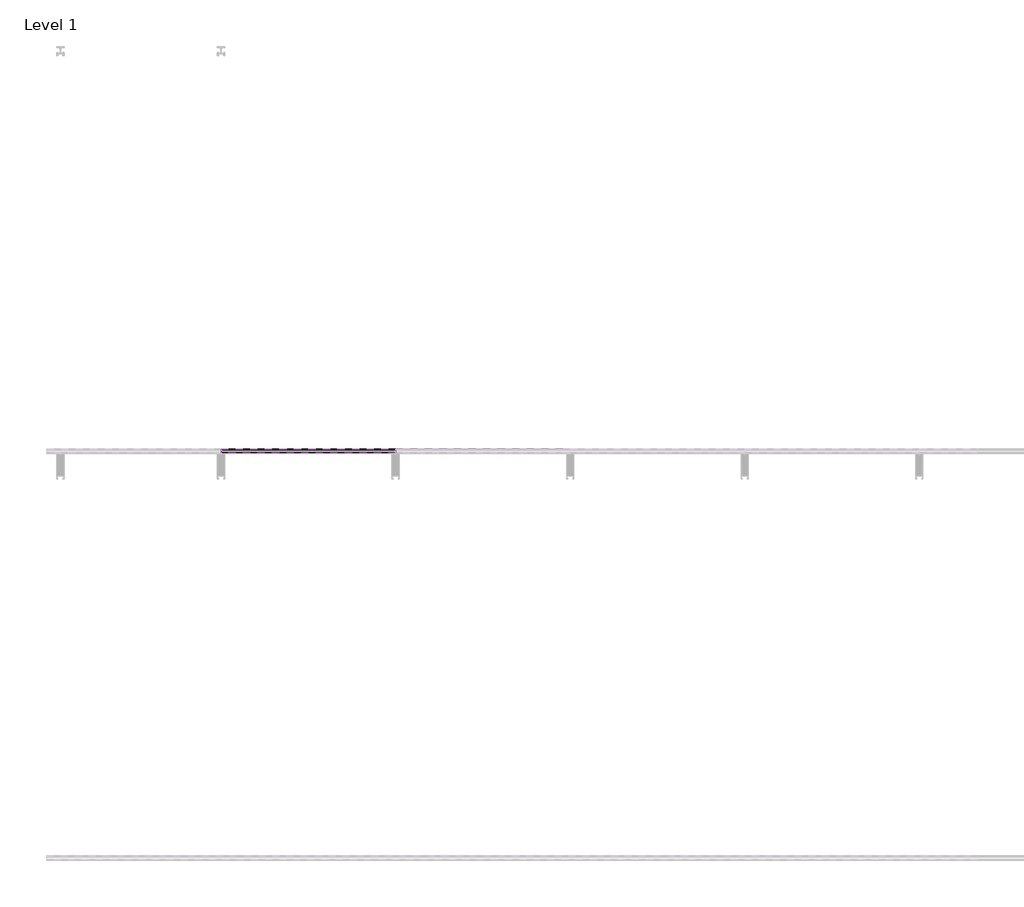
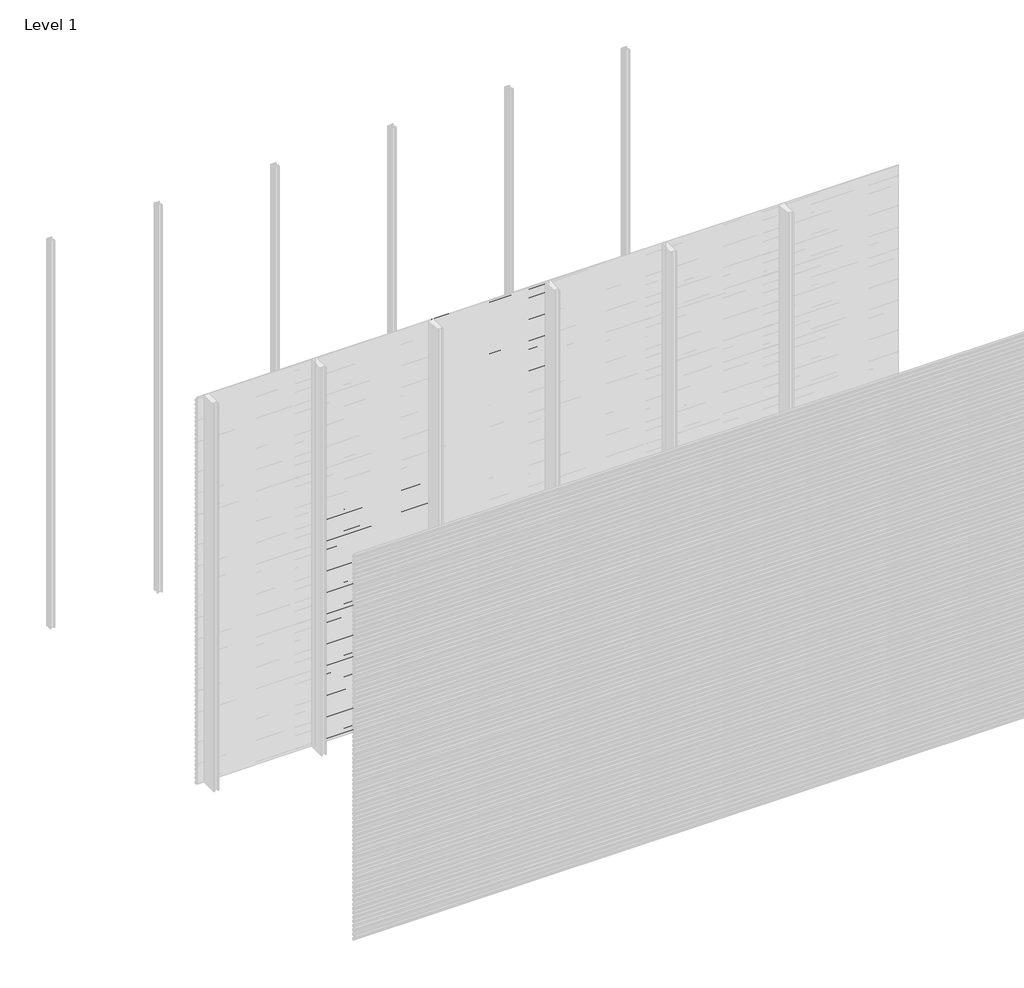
# One storey, part 16 of 96: 77 proxies.
"""IFC4 building model written with IfcOpenShell, lengths in millimetres."""

from ifc_helpers import new_model, si_unit, frame, origin, place, context, project, spatial, polyline, outline, extrude, element, save

model = new_model("IFC4")

# Units and contexts
model_context = context("Model", 3, world=origin())
ifc_project = project(units=[si_unit("LENGTHUNIT", "METRE", prefix="MILLI")], contexts=[model_context])

# Site, building, storey
site = spatial("IfcSite", under=ifc_project)
building = spatial("IfcBuilding", under=site)
storey = spatial("IfcBuildingStorey", under=building, Name="Level 1", Elevation=0.0)

# Proxies
placement = place(None, origin())
element("IfcBuildingElementProxy", 1, Name="Wall Sweeps", at=placement, inside=storey, context=model_context, shape_type="SweptSolid", body=[
    extrude(outline(polyline([(-47977.6, 1839.5655033), (-47977.6, 1825.2779188), (-47982.4114965, 1822.5), (-47982.4114965, 1823.7701706), (-47978.85, 1825.8264016), (-47978.85, 1838.8437382), (-47998.0, 1849.9000799), (-47998.0, 1864.8), (-47996.75, 1864.8), (-47996.75, 1850.6217609), (-47977.6, 1839.5655033)])), frame((857.1428571, 0.0, 0.0), z_axis=(1.0, 0.0, 0.0), x_axis=(0.0, 1.0, 0.0)), (0.0, 0.0, 1.0), 857.1428571),
])
element("IfcBuildingElementProxy", 2, Name="Wall Sweeps", at=placement, inside=storey, context=model_context, shape_type="SweptSolid", body=[
    extrude(outline(polyline([(-47977.6, 1806.2655033), (-47977.6, 1791.9779188), (-47982.4114965, 1789.2), (-47982.4114965, 1790.4701706), (-47978.85, 1792.5264016), (-47978.85, 1805.5437382), (-47998.0, 1816.6000799), (-47998.0, 1831.5), (-47996.75, 1831.5), (-47996.75, 1817.3217609), (-47977.6, 1806.2655033)])), frame((857.1428571, 0.0, 0.0), z_axis=(1.0, 0.0, 0.0), x_axis=(0.0, 1.0, 0.0)), (0.0, 0.0, 1.0), 857.1428571),
])
element("IfcBuildingElementProxy", 3, Name="Wall Sweeps", at=placement, inside=storey, context=model_context, shape_type="SweptSolid", body=[
    extrude(outline(polyline([(-47977.6, 1772.9655033), (-47977.6, 1758.6779188), (-47982.4114965, 1755.9), (-47982.4114965, 1757.1701706), (-47978.85, 1759.2264016), (-47978.85, 1772.2437382), (-47998.0, 1783.3000799), (-47998.0, 1798.2), (-47996.75, 1798.2), (-47996.75, 1784.0217609), (-47977.6, 1772.9655033)])), frame((857.1428571, 0.0, 0.0), z_axis=(1.0, 0.0, 0.0), x_axis=(0.0, 1.0, 0.0)), (0.0, 0.0, 1.0), 857.1428571),
])
element("IfcBuildingElementProxy", 4, Name="Wall Sweeps", at=placement, inside=storey, context=model_context, shape_type="SweptSolid", body=[
    extrude(outline(polyline([(-47977.6, 1739.6655033), (-47977.6, 1725.3779188), (-47982.4114965, 1722.6), (-47982.4114965, 1723.8701706), (-47978.85, 1725.9264016), (-47978.85, 1738.9437382), (-47998.0, 1750.0000799), (-47998.0, 1764.9), (-47996.75, 1764.9), (-47996.75, 1750.7217609), (-47977.6, 1739.6655033)])), frame((857.1428571, 0.0, 0.0), z_axis=(1.0, 0.0, 0.0), x_axis=(0.0, 1.0, 0.0)), (0.0, 0.0, 1.0), 857.1428571),
])
element("IfcBuildingElementProxy", 5, Name="Wall Sweeps", at=placement, inside=storey, context=model_context, shape_type="SweptSolid", body=[
    extrude(outline(polyline([(-47977.6, 1706.3655033), (-47977.6, 1692.0779188), (-47982.4114965, 1689.3), (-47982.4114965, 1690.5701706), (-47978.85, 1692.6264016), (-47978.85, 1705.6437382), (-47998.0, 1716.7000799), (-47998.0, 1731.6), (-47996.75, 1731.6), (-47996.75, 1717.4217609), (-47977.6, 1706.3655033)])), frame((857.1428571, 0.0, 0.0), z_axis=(1.0, 0.0, 0.0), x_axis=(0.0, 1.0, 0.0)), (0.0, 0.0, 1.0), 857.1428571),
])
element("IfcBuildingElementProxy", 6, Name="Wall Sweeps", at=placement, inside=storey, context=model_context, shape_type="SweptSolid", body=[
    extrude(outline(polyline([(-47977.6, 1673.0655033), (-47977.6, 1658.7779188), (-47982.4114965, 1656.0), (-47982.4114965, 1657.2701706), (-47978.85, 1659.3264016), (-47978.85, 1672.3437382), (-47998.0, 1683.4000799), (-47998.0, 1698.3), (-47996.75, 1698.3), (-47996.75, 1684.1217609), (-47977.6, 1673.0655033)])), frame((857.1428571, 0.0, 0.0), z_axis=(1.0, 0.0, 0.0), x_axis=(0.0, 1.0, 0.0)), (0.0, 0.0, 1.0), 857.1428571),
])
element("IfcBuildingElementProxy", 7, Name="Wall Sweeps", at=placement, inside=storey, context=model_context, shape_type="SweptSolid", body=[
    extrude(outline(polyline([(-47977.6, 1639.7655033), (-47977.6, 1625.4779188), (-47982.4114965, 1622.7), (-47982.4114965, 1623.9701706), (-47978.85, 1626.0264016), (-47978.85, 1639.0437382), (-47998.0, 1650.1000799), (-47998.0, 1665.0), (-47996.75, 1665.0), (-47996.75, 1650.8217609), (-47977.6, 1639.7655033)])), frame((857.1428571, 0.0, 0.0), z_axis=(1.0, 0.0, 0.0), x_axis=(0.0, 1.0, 0.0)), (0.0, 0.0, 1.0), 857.1428571),
])
element("IfcBuildingElementProxy", 8, Name="Wall Sweeps", at=placement, inside=storey, context=model_context, shape_type="SweptSolid", body=[
    extrude(outline(polyline([(-47977.6, 1606.4655033), (-47977.6, 1592.1779188), (-47982.4114965, 1589.4), (-47982.4114965, 1590.6701706), (-47978.85, 1592.7264016), (-47978.85, 1605.7437382), (-47998.0, 1616.8000799), (-47998.0, 1631.7), (-47996.75, 1631.7), (-47996.75, 1617.5217609), (-47977.6, 1606.4655033)])), frame((857.1428571, 0.0, 0.0), z_axis=(1.0, 0.0, 0.0), x_axis=(0.0, 1.0, 0.0)), (0.0, 0.0, 1.0), 857.1428571),
])
element("IfcBuildingElementProxy", 9, Name="Wall Sweeps", at=placement, inside=storey, context=model_context, shape_type="SweptSolid", body=[
    extrude(outline(polyline([(-47977.6, 1573.1655033), (-47977.6, 1558.8779188), (-47982.4114965, 1556.1), (-47982.4114965, 1557.3701706), (-47978.85, 1559.4264016), (-47978.85, 1572.4437382), (-47998.0, 1583.5000799), (-47998.0, 1598.4), (-47996.75, 1598.4), (-47996.75, 1584.2217609), (-47977.6, 1573.1655033)])), frame((857.1428571, 0.0, 0.0), z_axis=(1.0, 0.0, 0.0), x_axis=(0.0, 1.0, 0.0)), (0.0, 0.0, 1.0), 857.1428571),
])
element("IfcBuildingElementProxy", 10, Name="Wall Sweeps", at=placement, inside=storey, context=model_context, shape_type="SweptSolid", body=[
    extrude(outline(polyline([(-47977.6, 1539.8655033), (-47977.6, 1525.5779188), (-47982.4114965, 1522.8), (-47982.4114965, 1524.0701706), (-47978.85, 1526.1264016), (-47978.85, 1539.1437382), (-47998.0, 1550.2000799), (-47998.0, 1565.1), (-47996.75, 1565.1), (-47996.75, 1550.9217609), (-47977.6, 1539.8655033)])), frame((857.1428571, 0.0, 0.0), z_axis=(1.0, 0.0, 0.0), x_axis=(0.0, 1.0, 0.0)), (0.0, 0.0, 1.0), 857.1428571),
])
element("IfcBuildingElementProxy", 11, Name="Wall Sweeps", at=placement, inside=storey, context=model_context, shape_type="SweptSolid", body=[
    extrude(outline(polyline([(-47977.6, 1506.5655033), (-47977.6, 1492.2779188), (-47982.4114965, 1489.5), (-47982.4114965, 1490.7701706), (-47978.85, 1492.8264016), (-47978.85, 1505.8437382), (-47998.0, 1516.9000799), (-47998.0, 1531.8), (-47996.75, 1531.8), (-47996.75, 1517.6217609), (-47977.6, 1506.5655033)])), frame((857.1428571, 0.0, 0.0), z_axis=(1.0, 0.0, 0.0), x_axis=(0.0, 1.0, 0.0)), (0.0, 0.0, 1.0), 857.1428571),
])
element("IfcBuildingElementProxy", 12, Name="Wall Sweeps", at=placement, inside=storey, context=model_context, shape_type="SweptSolid", body=[
    extrude(outline(polyline([(-47977.6, 1473.2655033), (-47977.6, 1458.9779188), (-47982.4114965, 1456.2), (-47982.4114965, 1457.4701706), (-47978.85, 1459.5264016), (-47978.85, 1472.5437382), (-47998.0, 1483.6000799), (-47998.0, 1498.5), (-47996.75, 1498.5), (-47996.75, 1484.3217609), (-47977.6, 1473.2655033)])), frame((857.1428571, 0.0, 0.0), z_axis=(1.0, 0.0, 0.0), x_axis=(0.0, 1.0, 0.0)), (0.0, 0.0, 1.0), 857.1428571),
])
element("IfcBuildingElementProxy", 13, Name="Wall Sweeps", at=placement, inside=storey, context=model_context, shape_type="SweptSolid", body=[
    extrude(outline(polyline([(-47977.6, 1439.9655033), (-47977.6, 1425.6779188), (-47982.4114965, 1422.9), (-47982.4114965, 1424.1701706), (-47978.85, 1426.2264016), (-47978.85, 1439.2437382), (-47998.0, 1450.3000799), (-47998.0, 1465.2), (-47996.75, 1465.2), (-47996.75, 1451.0217609), (-47977.6, 1439.9655033)])), frame((857.1428571, 0.0, 0.0), z_axis=(1.0, 0.0, 0.0), x_axis=(0.0, 1.0, 0.0)), (0.0, 0.0, 1.0), 857.1428571),
])
element("IfcBuildingElementProxy", 14, Name="Wall Sweeps", at=placement, inside=storey, context=model_context, shape_type="SweptSolid", body=[
    extrude(outline(polyline([(-47977.6, 1406.6655033), (-47977.6, 1392.3779188), (-47982.4114965, 1389.6), (-47982.4114965, 1390.8701706), (-47978.85, 1392.9264016), (-47978.85, 1405.9437382), (-47998.0, 1417.0000799), (-47998.0, 1431.9), (-47996.75, 1431.9), (-47996.75, 1417.7217609), (-47977.6, 1406.6655033)])), frame((857.1428571, 0.0, 0.0), z_axis=(1.0, 0.0, 0.0), x_axis=(0.0, 1.0, 0.0)), (0.0, 0.0, 1.0), 857.1428571),
])
element("IfcBuildingElementProxy", 15, Name="Wall Sweeps", at=placement, inside=storey, context=model_context, shape_type="SweptSolid", body=[
    extrude(outline(polyline([(-47977.6, 1373.3655033), (-47977.6, 1359.0779188), (-47982.4114965, 1356.3), (-47982.4114965, 1357.5701706), (-47978.85, 1359.6264016), (-47978.85, 1372.6437382), (-47998.0, 1383.7000799), (-47998.0, 1398.6), (-47996.75, 1398.6), (-47996.75, 1384.4217609), (-47977.6, 1373.3655033)])), frame((857.1428571, 0.0, 0.0), z_axis=(1.0, 0.0, 0.0), x_axis=(0.0, 1.0, 0.0)), (0.0, 0.0, 1.0), 857.1428571),
])
element("IfcBuildingElementProxy", 16, Name="Wall Sweeps", at=placement, inside=storey, context=model_context, shape_type="SweptSolid", body=[
    extrude(outline(polyline([(-47977.6, 1340.0655033), (-47977.6, 1325.7779188), (-47982.4114965, 1323.0), (-47982.4114965, 1324.2701706), (-47978.85, 1326.3264016), (-47978.85, 1339.3437382), (-47998.0, 1350.4000799), (-47998.0, 1365.3), (-47996.75, 1365.3), (-47996.75, 1351.1217609), (-47977.6, 1340.0655033)])), frame((857.1428571, 0.0, 0.0), z_axis=(1.0, 0.0, 0.0), x_axis=(0.0, 1.0, 0.0)), (0.0, 0.0, 1.0), 857.1428571),
])
element("IfcBuildingElementProxy", 17, Name="Wall Sweeps", at=placement, inside=storey, context=model_context, shape_type="SweptSolid", body=[
    extrude(outline(polyline([(-47977.6, 1306.7655033), (-47977.6, 1292.4779188), (-47982.4114965, 1289.7), (-47982.4114965, 1290.9701706), (-47978.85, 1293.0264016), (-47978.85, 1306.0437382), (-47998.0, 1317.1000799), (-47998.0, 1332.0), (-47996.75, 1332.0), (-47996.75, 1317.8217609), (-47977.6, 1306.7655033)])), frame((857.1428571, 0.0, 0.0), z_axis=(1.0, 0.0, 0.0), x_axis=(0.0, 1.0, 0.0)), (0.0, 0.0, 1.0), 857.1428571),
])
element("IfcBuildingElementProxy", 18, Name="Wall Sweeps", at=placement, inside=storey, context=model_context, shape_type="SweptSolid", body=[
    extrude(outline(polyline([(-47977.6, 1273.4655033), (-47977.6, 1259.1779188), (-47982.4114965, 1256.4), (-47982.4114965, 1257.6701706), (-47978.85, 1259.7264016), (-47978.85, 1272.7437382), (-47998.0, 1283.8000799), (-47998.0, 1298.7), (-47996.75, 1298.7), (-47996.75, 1284.5217609), (-47977.6, 1273.4655033)])), frame((857.1428571, 0.0, 0.0), z_axis=(1.0, 0.0, 0.0), x_axis=(0.0, 1.0, 0.0)), (0.0, 0.0, 1.0), 857.1428571),
])
element("IfcBuildingElementProxy", 19, Name="Wall Sweeps", at=placement, inside=storey, context=model_context, shape_type="SweptSolid", body=[
    extrude(outline(polyline([(-47977.6, 1240.1655033), (-47977.6, 1225.8779188), (-47982.4114965, 1223.1), (-47982.4114965, 1224.3701706), (-47978.85, 1226.4264016), (-47978.85, 1239.4437382), (-47998.0, 1250.5000799), (-47998.0, 1265.4), (-47996.75, 1265.4), (-47996.75, 1251.2217609), (-47977.6, 1240.1655033)])), frame((857.1428571, 0.0, 0.0), z_axis=(1.0, 0.0, 0.0), x_axis=(0.0, 1.0, 0.0)), (0.0, 0.0, 1.0), 857.1428571),
])
element("IfcBuildingElementProxy", 20, Name="Wall Sweeps", at=placement, inside=storey, context=model_context, shape_type="SweptSolid", body=[
    extrude(outline(polyline([(-47977.6, 1206.8655033), (-47977.6, 1192.5779188), (-47982.4114965, 1189.8), (-47982.4114965, 1191.0701706), (-47978.85, 1193.1264016), (-47978.85, 1206.1437382), (-47998.0, 1217.2000799), (-47998.0, 1232.1), (-47996.75, 1232.1), (-47996.75, 1217.9217609), (-47977.6, 1206.8655033)])), frame((857.1428571, 0.0, 0.0), z_axis=(1.0, 0.0, 0.0), x_axis=(0.0, 1.0, 0.0)), (0.0, 0.0, 1.0), 857.1428571),
])
element("IfcBuildingElementProxy", 21, Name="Wall Sweeps", at=placement, inside=storey, context=model_context, shape_type="SweptSolid", body=[
    extrude(outline(polyline([(-47977.6, 1173.5655033), (-47977.6, 1159.2779188), (-47982.4114965, 1156.5), (-47982.4114965, 1157.7701706), (-47978.85, 1159.8264016), (-47978.85, 1172.8437382), (-47998.0, 1183.9000799), (-47998.0, 1198.8), (-47996.75, 1198.8), (-47996.75, 1184.6217609), (-47977.6, 1173.5655033)])), frame((857.1428571, 0.0, 0.0), z_axis=(1.0, 0.0, 0.0), x_axis=(0.0, 1.0, 0.0)), (0.0, 0.0, 1.0), 857.1428571),
])
element("IfcBuildingElementProxy", 22, Name="Wall Sweeps", at=placement, inside=storey, context=model_context, shape_type="SweptSolid", body=[
    extrude(outline(polyline([(-47977.6, 1140.2655033), (-47977.6, 1125.9779188), (-47982.4114965, 1123.2), (-47982.4114965, 1124.4701706), (-47978.85, 1126.5264016), (-47978.85, 1139.5437382), (-47998.0, 1150.6000799), (-47998.0, 1165.5), (-47996.75, 1165.5), (-47996.75, 1151.3217609), (-47977.6, 1140.2655033)])), frame((857.1428571, 0.0, 0.0), z_axis=(1.0, 0.0, 0.0), x_axis=(0.0, 1.0, 0.0)), (0.0, 0.0, 1.0), 857.1428571),
])
element("IfcBuildingElementProxy", 23, Name="Wall Sweeps", at=placement, inside=storey, context=model_context, shape_type="SweptSolid", body=[
    extrude(outline(polyline([(-47977.6, 1106.9655033), (-47977.6, 1092.6779188), (-47982.4114965, 1089.9), (-47982.4114965, 1091.1701706), (-47978.85, 1093.2264016), (-47978.85, 1106.2437382), (-47998.0, 1117.3000799), (-47998.0, 1132.2), (-47996.75, 1132.2), (-47996.75, 1118.0217609), (-47977.6, 1106.9655033)])), frame((857.1428571, 0.0, 0.0), z_axis=(1.0, 0.0, 0.0), x_axis=(0.0, 1.0, 0.0)), (0.0, 0.0, 1.0), 857.1428571),
])
element("IfcBuildingElementProxy", 24, Name="Wall Sweeps", at=placement, inside=storey, context=model_context, shape_type="SweptSolid", body=[
    extrude(outline(polyline([(-47977.6, 1073.6655033), (-47977.6, 1059.3779188), (-47982.4114965, 1056.6), (-47982.4114965, 1057.8701706), (-47978.85, 1059.9264016), (-47978.85, 1072.9437382), (-47998.0, 1084.0000799), (-47998.0, 1098.9), (-47996.75, 1098.9), (-47996.75, 1084.7217609), (-47977.6, 1073.6655033)])), frame((857.1428571, 0.0, 0.0), z_axis=(1.0, 0.0, 0.0), x_axis=(0.0, 1.0, 0.0)), (0.0, 0.0, 1.0), 857.1428571),
])
element("IfcBuildingElementProxy", 25, Name="Wall Sweeps", at=placement, inside=storey, context=model_context, shape_type="SweptSolid", body=[
    extrude(outline(polyline([(-47977.6, 1040.3655033), (-47977.6, 1026.0779188), (-47982.4114965, 1023.3), (-47982.4114965, 1024.5701706), (-47978.85, 1026.6264016), (-47978.85, 1039.6437382), (-47998.0, 1050.7000799), (-47998.0, 1065.6), (-47996.75, 1065.6), (-47996.75, 1051.4217609), (-47977.6, 1040.3655033)])), frame((857.1428571, 0.0, 0.0), z_axis=(1.0, 0.0, 0.0), x_axis=(0.0, 1.0, 0.0)), (0.0, 0.0, 1.0), 857.1428571),
])
element("IfcBuildingElementProxy", 26, Name="Wall Sweeps", at=placement, inside=storey, context=model_context, shape_type="SweptSolid", body=[
    extrude(outline(polyline([(-47977.6, 1007.0655033), (-47977.6, 992.7779188), (-47982.4114965, 990.0), (-47982.4114965, 991.2701706), (-47978.85, 993.3264016), (-47978.85, 1006.3437382), (-47998.0, 1017.4000799), (-47998.0, 1032.3), (-47996.75, 1032.3), (-47996.75, 1018.1217609), (-47977.6, 1007.0655033)])), frame((857.1428571, 0.0, 0.0), z_axis=(1.0, 0.0, 0.0), x_axis=(0.0, 1.0, 0.0)), (0.0, 0.0, 1.0), 857.1428571),
])
element("IfcBuildingElementProxy", 27, Name="Wall Sweeps", at=placement, inside=storey, context=model_context, shape_type="SweptSolid", body=[
    extrude(outline(polyline([(-47977.6, 973.7655033), (-47977.6, 959.4779188), (-47982.4114965, 956.7), (-47982.4114965, 957.9701706), (-47978.85, 960.0264016), (-47978.85, 973.0437382), (-47998.0, 984.1000799), (-47998.0, 999.0), (-47996.75, 999.0), (-47996.75, 984.8217609), (-47977.6, 973.7655033)])), frame((857.1428571, 0.0, 0.0), z_axis=(1.0, 0.0, 0.0), x_axis=(0.0, 1.0, 0.0)), (0.0, 0.0, 1.0), 857.1428571),
])
element("IfcBuildingElementProxy", 28, Name="Wall Sweeps", at=placement, inside=storey, context=model_context, shape_type="SweptSolid", body=[
    extrude(outline(polyline([(-47977.6, 940.4655033), (-47977.6, 926.1779188), (-47982.4114965, 923.4), (-47982.4114965, 924.6701706), (-47978.85, 926.7264016), (-47978.85, 939.7437382), (-47998.0, 950.8000799), (-47998.0, 965.7), (-47996.75, 965.7), (-47996.75, 951.5217609), (-47977.6, 940.4655033)])), frame((857.1428571, 0.0, 0.0), z_axis=(1.0, 0.0, 0.0), x_axis=(0.0, 1.0, 0.0)), (0.0, 0.0, 1.0), 857.1428571),
])
element("IfcBuildingElementProxy", 29, Name="Wall Sweeps", at=placement, inside=storey, context=model_context, shape_type="SweptSolid", body=[
    extrude(outline(polyline([(-47977.6, 907.1655033), (-47977.6, 892.8779188), (-47982.4114965, 890.1), (-47982.4114965, 891.3701706), (-47978.85, 893.4264016), (-47978.85, 906.4437382), (-47998.0, 917.5000799), (-47998.0, 932.4), (-47996.75, 932.4), (-47996.75, 918.2217609), (-47977.6, 907.1655033)])), frame((857.1428571, 0.0, 0.0), z_axis=(1.0, 0.0, 0.0), x_axis=(0.0, 1.0, 0.0)), (0.0, 0.0, 1.0), 857.1428571),
])
element("IfcBuildingElementProxy", 30, Name="Wall Sweeps", at=placement, inside=storey, context=model_context, shape_type="SweptSolid", body=[
    extrude(outline(polyline([(-47977.6, 873.8655033), (-47977.6, 859.5779188), (-47982.4114965, 856.8), (-47982.4114965, 858.0701706), (-47978.85, 860.1264016), (-47978.85, 873.1437382), (-47998.0, 884.2000799), (-47998.0, 899.1), (-47996.75, 899.1), (-47996.75, 884.9217609), (-47977.6, 873.8655033)])), frame((857.1428571, 0.0, 0.0), z_axis=(1.0, 0.0, 0.0), x_axis=(0.0, 1.0, 0.0)), (0.0, 0.0, 1.0), 857.1428571),
])
element("IfcBuildingElementProxy", 31, Name="Wall Sweeps", at=placement, inside=storey, context=model_context, shape_type="SweptSolid", body=[
    extrude(outline(polyline([(-47977.6, 840.5655033), (-47977.6, 826.2779188), (-47982.4114965, 823.5), (-47982.4114965, 824.7701706), (-47978.85, 826.8264016), (-47978.85, 839.8437382), (-47998.0, 850.9000799), (-47998.0, 865.8), (-47996.75, 865.8), (-47996.75, 851.6217609), (-47977.6, 840.5655033)])), frame((857.1428571, 0.0, 0.0), z_axis=(1.0, 0.0, 0.0), x_axis=(0.0, 1.0, 0.0)), (0.0, 0.0, 1.0), 857.1428571),
])
element("IfcBuildingElementProxy", 32, Name="Wall Sweeps", at=placement, inside=storey, context=model_context, shape_type="SweptSolid", body=[
    extrude(outline(polyline([(-47977.6, 807.2655033), (-47977.6, 792.9779188), (-47982.4114965, 790.2), (-47982.4114965, 791.4701706), (-47978.85, 793.5264016), (-47978.85, 806.5437382), (-47998.0, 817.6000799), (-47998.0, 832.5), (-47996.75, 832.5), (-47996.75, 818.3217609), (-47977.6, 807.2655033)])), frame((857.1428571, 0.0, 0.0), z_axis=(1.0, 0.0, 0.0), x_axis=(0.0, 1.0, 0.0)), (0.0, 0.0, 1.0), 857.1428571),
])
element("IfcBuildingElementProxy", 33, Name="Wall Sweeps", at=placement, inside=storey, context=model_context, shape_type="SweptSolid", body=[
    extrude(outline(polyline([(-47977.6, 773.9655033), (-47977.6, 759.6779188), (-47982.4114965, 756.9), (-47982.4114965, 758.1701706), (-47978.85, 760.2264016), (-47978.85, 773.2437382), (-47998.0, 784.3000799), (-47998.0, 799.2), (-47996.75, 799.2), (-47996.75, 785.0217609), (-47977.6, 773.9655033)])), frame((857.1428571, 0.0, 0.0), z_axis=(1.0, 0.0, 0.0), x_axis=(0.0, 1.0, 0.0)), (0.0, 0.0, 1.0), 857.1428571),
])
element("IfcBuildingElementProxy", 34, Name="Wall Sweeps", at=placement, inside=storey, context=model_context, shape_type="SweptSolid", body=[
    extrude(outline(polyline([(-47977.6, 740.6655033), (-47977.6, 726.3779188), (-47982.4114965, 723.6), (-47982.4114965, 724.8701706), (-47978.85, 726.9264016), (-47978.85, 739.9437382), (-47998.0, 751.0000799), (-47998.0, 765.9), (-47996.75, 765.9), (-47996.75, 751.7217609), (-47977.6, 740.6655033)])), frame((857.1428571, 0.0, 0.0), z_axis=(1.0, 0.0, 0.0), x_axis=(0.0, 1.0, 0.0)), (0.0, 0.0, 1.0), 857.1428571),
])
element("IfcBuildingElementProxy", 35, Name="Wall Sweeps", at=placement, inside=storey, context=model_context, shape_type="SweptSolid", body=[
    extrude(outline(polyline([(-47977.6, 707.3655033), (-47977.6, 693.0779188), (-47982.4114965, 690.3), (-47982.4114965, 691.5701706), (-47978.85, 693.6264016), (-47978.85, 706.6437382), (-47998.0, 717.7000799), (-47998.0, 732.6), (-47996.75, 732.6), (-47996.75, 718.4217609), (-47977.6, 707.3655033)])), frame((857.1428571, 0.0, 0.0), z_axis=(1.0, 0.0, 0.0), x_axis=(0.0, 1.0, 0.0)), (0.0, 0.0, 1.0), 857.1428571),
])
element("IfcBuildingElementProxy", 36, Name="Wall Sweeps", at=placement, inside=storey, context=model_context, shape_type="SweptSolid", body=[
    extrude(outline(polyline([(-47977.6, 674.0655033), (-47977.6, 659.7779188), (-47982.4114965, 657.0), (-47982.4114965, 658.2701706), (-47978.85, 660.3264016), (-47978.85, 673.3437382), (-47998.0, 684.4000799), (-47998.0, 699.3), (-47996.75, 699.3), (-47996.75, 685.1217609), (-47977.6, 674.0655033)])), frame((857.1428571, 0.0, 0.0), z_axis=(1.0, 0.0, 0.0), x_axis=(0.0, 1.0, 0.0)), (0.0, 0.0, 1.0), 857.1428571),
])
element("IfcBuildingElementProxy", 37, Name="Wall Sweeps", at=placement, inside=storey, context=model_context, shape_type="SweptSolid", body=[
    extrude(outline(polyline([(-47977.6, 640.7655033), (-47977.6, 626.4779188), (-47982.4114965, 623.7), (-47982.4114965, 624.9701706), (-47978.85, 627.0264016), (-47978.85, 640.0437382), (-47998.0, 651.1000799), (-47998.0, 666.0), (-47996.75, 666.0), (-47996.75, 651.8217609), (-47977.6, 640.7655033)])), frame((857.1428571, 0.0, 0.0), z_axis=(1.0, 0.0, 0.0), x_axis=(0.0, 1.0, 0.0)), (0.0, 0.0, 1.0), 857.1428571),
])
element("IfcBuildingElementProxy", 38, Name="Wall Sweeps", at=placement, inside=storey, context=model_context, shape_type="SweptSolid", body=[
    extrude(outline(polyline([(-47977.6, 607.4655033), (-47977.6, 593.1779188), (-47982.4114965, 590.4), (-47982.4114965, 591.6701706), (-47978.85, 593.7264016), (-47978.85, 606.7437382), (-47998.0, 617.8000799), (-47998.0, 632.7), (-47996.75, 632.7), (-47996.75, 618.5217609), (-47977.6, 607.4655033)])), frame((857.1428571, 0.0, 0.0), z_axis=(1.0, 0.0, 0.0), x_axis=(0.0, 1.0, 0.0)), (0.0, 0.0, 1.0), 857.1428571),
])
element("IfcBuildingElementProxy", 39, Name="Wall Sweeps", at=placement, inside=storey, context=model_context, shape_type="SweptSolid", body=[
    extrude(outline(polyline([(-47977.6, 574.1655033), (-47977.6, 559.8779188), (-47982.4114965, 557.1), (-47982.4114965, 558.3701706), (-47978.85, 560.4264016), (-47978.85, 573.4437382), (-47998.0, 584.5000799), (-47998.0, 599.4), (-47996.75, 599.4), (-47996.75, 585.2217609), (-47977.6, 574.1655033)])), frame((857.1428571, 0.0, 0.0), z_axis=(1.0, 0.0, 0.0), x_axis=(0.0, 1.0, 0.0)), (0.0, 0.0, 1.0), 857.1428571),
])
element("IfcBuildingElementProxy", 40, Name="Wall Sweeps", at=placement, inside=storey, context=model_context, shape_type="SweptSolid", body=[
    extrude(outline(polyline([(-47977.6, 540.8655033), (-47977.6, 526.5779188), (-47982.4114965, 523.8), (-47982.4114965, 525.0701706), (-47978.85, 527.1264016), (-47978.85, 540.1437382), (-47998.0, 551.2000799), (-47998.0, 566.1), (-47996.75, 566.1), (-47996.75, 551.9217609), (-47977.6, 540.8655033)])), frame((857.1428571, 0.0, 0.0), z_axis=(1.0, 0.0, 0.0), x_axis=(0.0, 1.0, 0.0)), (0.0, 0.0, 1.0), 857.1428571),
])
element("IfcBuildingElementProxy", 41, Name="Wall Sweeps", at=placement, inside=storey, context=model_context, shape_type="SweptSolid", body=[
    extrude(outline(polyline([(-47977.6, 507.5655033), (-47977.6, 493.2779188), (-47982.4114965, 490.5), (-47982.4114965, 491.7701706), (-47978.85, 493.8264016), (-47978.85, 506.8437382), (-47998.0, 517.9000799), (-47998.0, 532.8), (-47996.75, 532.8), (-47996.75, 518.6217609), (-47977.6, 507.5655033)])), frame((857.1428571, 0.0, 0.0), z_axis=(1.0, 0.0, 0.0), x_axis=(0.0, 1.0, 0.0)), (0.0, 0.0, 1.0), 857.1428571),
])
element("IfcBuildingElementProxy", 42, Name="Wall Sweeps", at=placement, inside=storey, context=model_context, shape_type="SweptSolid", body=[
    extrude(outline(polyline([(-47977.6, 474.2655033), (-47977.6, 459.9779188), (-47982.4114965, 457.2), (-47982.4114965, 458.4701706), (-47978.85, 460.5264016), (-47978.85, 473.5437382), (-47998.0, 484.6000799), (-47998.0, 499.5), (-47996.75, 499.5), (-47996.75, 485.3217609), (-47977.6, 474.2655033)])), frame((857.1428571, 0.0, 0.0), z_axis=(1.0, 0.0, 0.0), x_axis=(0.0, 1.0, 0.0)), (0.0, 0.0, 1.0), 857.1428571),
])
element("IfcBuildingElementProxy", 43, Name="Wall Sweeps", at=placement, inside=storey, context=model_context, shape_type="SweptSolid", body=[
    extrude(outline(polyline([(-47977.6, 440.9655033), (-47977.6, 426.6779188), (-47982.4114965, 423.9), (-47982.4114965, 425.1701706), (-47978.85, 427.2264016), (-47978.85, 440.2437382), (-47998.0, 451.3000799), (-47998.0, 466.2), (-47996.75, 466.2), (-47996.75, 452.0217609), (-47977.6, 440.9655033)])), frame((857.1428571, 0.0, 0.0), z_axis=(1.0, 0.0, 0.0), x_axis=(0.0, 1.0, 0.0)), (0.0, 0.0, 1.0), 857.1428571),
])
element("IfcBuildingElementProxy", 44, Name="Wall Sweeps", at=placement, inside=storey, context=model_context, shape_type="SweptSolid", body=[
    extrude(outline(polyline([(-47977.6, 407.6655033), (-47977.6, 393.3779188), (-47982.4114965, 390.6), (-47982.4114965, 391.8701706), (-47978.85, 393.9264016), (-47978.85, 406.9437382), (-47998.0, 418.0000799), (-47998.0, 432.9), (-47996.75, 432.9), (-47996.75, 418.7217609), (-47977.6, 407.6655033)])), frame((857.1428571, 0.0, 0.0), z_axis=(1.0, 0.0, 0.0), x_axis=(0.0, 1.0, 0.0)), (0.0, 0.0, 1.0), 857.1428571),
])
element("IfcBuildingElementProxy", 45, Name="Wall Sweeps", at=placement, inside=storey, context=model_context, shape_type="SweptSolid", body=[
    extrude(outline(polyline([(-47977.6, 374.3655033), (-47977.6, 360.0779188), (-47982.4114965, 357.3), (-47982.4114965, 358.5701706), (-47978.85, 360.6264016), (-47978.85, 373.6437382), (-47998.0, 384.7000799), (-47998.0, 399.6), (-47996.75, 399.6), (-47996.75, 385.4217609), (-47977.6, 374.3655033)])), frame((857.1428571, 0.0, 0.0), z_axis=(1.0, 0.0, 0.0), x_axis=(0.0, 1.0, 0.0)), (0.0, 0.0, 1.0), 857.1428571),
])
element("IfcBuildingElementProxy", 46, Name="Wall Sweeps", at=placement, inside=storey, context=model_context, shape_type="SweptSolid", body=[
    extrude(outline(polyline([(-47977.6, 341.0655033), (-47977.6, 326.7779188), (-47982.4114965, 324.0), (-47982.4114965, 325.2701706), (-47978.85, 327.3264016), (-47978.85, 340.3437382), (-47998.0, 351.4000799), (-47998.0, 366.3), (-47996.75, 366.3), (-47996.75, 352.1217609), (-47977.6, 341.0655033)])), frame((857.1428571, 0.0, 0.0), z_axis=(1.0, 0.0, 0.0), x_axis=(0.0, 1.0, 0.0)), (0.0, 0.0, 1.0), 857.1428571),
])
element("IfcBuildingElementProxy", 47, Name="Wall Sweeps", at=placement, inside=storey, context=model_context, shape_type="SweptSolid", body=[
    extrude(outline(polyline([(-47977.6, 307.7655033), (-47977.6, 293.4779188), (-47982.4114965, 290.7), (-47982.4114965, 291.9701706), (-47978.85, 294.0264016), (-47978.85, 307.0437382), (-47998.0, 318.1000799), (-47998.0, 333.0), (-47996.75, 333.0), (-47996.75, 318.8217609), (-47977.6, 307.7655033)])), frame((857.1428571, 0.0, 0.0), z_axis=(1.0, 0.0, 0.0), x_axis=(0.0, 1.0, 0.0)), (0.0, 0.0, 1.0), 857.1428571),
])
element("IfcBuildingElementProxy", 48, Name="Wall Sweeps", at=placement, inside=storey, context=model_context, shape_type="SweptSolid", body=[
    extrude(outline(polyline([(-47977.6, 274.4655033), (-47977.6, 260.1779188), (-47982.4114965, 257.4), (-47982.4114965, 258.6701706), (-47978.85, 260.7264016), (-47978.85, 273.7437382), (-47998.0, 284.8000799), (-47998.0, 299.7), (-47996.75, 299.7), (-47996.75, 285.5217609), (-47977.6, 274.4655033)])), frame((857.1428571, 0.0, 0.0), z_axis=(1.0, 0.0, 0.0), x_axis=(0.0, 1.0, 0.0)), (0.0, 0.0, 1.0), 857.1428571),
])
element("IfcBuildingElementProxy", 49, Name="Wall Sweeps", at=placement, inside=storey, context=model_context, shape_type="SweptSolid", body=[
    extrude(outline(polyline([(-47977.6, 241.1655033), (-47977.6, 226.8779188), (-47982.4114965, 224.1), (-47982.4114965, 225.3701706), (-47978.85, 227.4264016), (-47978.85, 240.4437382), (-47998.0, 251.5000799), (-47998.0, 266.4), (-47996.75, 266.4), (-47996.75, 252.2217609), (-47977.6, 241.1655033)])), frame((857.1428571, 0.0, 0.0), z_axis=(1.0, 0.0, 0.0), x_axis=(0.0, 1.0, 0.0)), (0.0, 0.0, 1.0), 857.1428571),
])
element("IfcBuildingElementProxy", 50, Name="Wall Sweeps", at=placement, inside=storey, context=model_context, shape_type="SweptSolid", body=[
    extrude(outline(polyline([(-47977.6, 207.8655033), (-47977.6, 193.5779188), (-47982.4114965, 190.8), (-47982.4114965, 192.0701706), (-47978.85, 194.1264016), (-47978.85, 207.1437382), (-47998.0, 218.2000799), (-47998.0, 233.1), (-47996.75, 233.1), (-47996.75, 218.9217609), (-47977.6, 207.8655033)])), frame((857.1428571, 0.0, 0.0), z_axis=(1.0, 0.0, 0.0), x_axis=(0.0, 1.0, 0.0)), (0.0, 0.0, 1.0), 857.1428571),
])
element("IfcBuildingElementProxy", 51, Name="Wall Sweeps", at=placement, inside=storey, context=model_context, shape_type="SweptSolid", body=[
    extrude(outline(polyline([(-47977.6, 174.5655033), (-47977.6, 160.2779188), (-47982.4114965, 157.5), (-47982.4114965, 158.7701706), (-47978.85, 160.8264016), (-47978.85, 173.8437382), (-47998.0, 184.9000799), (-47998.0, 199.8), (-47996.75, 199.8), (-47996.75, 185.6217609), (-47977.6, 174.5655033)])), frame((857.1428571, 0.0, 0.0), z_axis=(1.0, 0.0, 0.0), x_axis=(0.0, 1.0, 0.0)), (0.0, 0.0, 1.0), 857.1428571),
])
element("IfcBuildingElementProxy", 52, Name="Wall Sweeps", at=placement, inside=storey, context=model_context, shape_type="SweptSolid", body=[
    extrude(outline(polyline([(-47977.6, 141.2655033), (-47977.6, 126.9779188), (-47982.4114965, 124.2), (-47982.4114965, 125.4701706), (-47978.85, 127.5264016), (-47978.85, 140.5437382), (-47998.0, 151.6000799), (-47998.0, 166.5), (-47996.75, 166.5), (-47996.75, 152.3217609), (-47977.6, 141.2655033)])), frame((857.1428571, 0.0, 0.0), z_axis=(1.0, 0.0, 0.0), x_axis=(0.0, 1.0, 0.0)), (0.0, 0.0, 1.0), 857.1428571),
])
element("IfcBuildingElementProxy", 53, Name="Wall Sweeps", at=placement, inside=storey, context=model_context, shape_type="SweptSolid", body=[
    extrude(outline(polyline([(-47977.6, 107.9655033), (-47977.6, 93.6779188), (-47982.4114965, 90.9), (-47982.4114965, 92.1701706), (-47978.85, 94.2264016), (-47978.85, 107.2437382), (-47998.0, 118.3000799), (-47998.0, 133.2), (-47996.75, 133.2), (-47996.75, 119.0217609), (-47977.6, 107.9655033)])), frame((857.1428571, 0.0, 0.0), z_axis=(1.0, 0.0, 0.0), x_axis=(0.0, 1.0, 0.0)), (0.0, 0.0, 1.0), 857.1428571),
])
element("IfcBuildingElementProxy", 54, Name="Wall Sweeps", at=placement, inside=storey, context=model_context, shape_type="SweptSolid", body=[
    extrude(outline(polyline([(-47977.6, 74.6655033), (-47977.6, 60.3779188), (-47982.4114965, 57.6), (-47982.4114965, 58.8701706), (-47978.85, 60.9264016), (-47978.85, 73.9437382), (-47998.0, 85.0000799), (-47998.0, 99.9), (-47996.75, 99.9), (-47996.75, 85.7217609), (-47977.6, 74.6655033)])), frame((857.1428571, 0.0, 0.0), z_axis=(1.0, 0.0, 0.0), x_axis=(0.0, 1.0, 0.0)), (0.0, 0.0, 1.0), 857.1428571),
])
element("IfcBuildingElementProxy", 55, Name="Wall Sweeps", at=placement, inside=storey, context=model_context, shape_type="SweptSolid", body=[
    extrude(outline(polyline([(-47977.6, 41.3655033), (-47977.6, 27.0779188), (-47982.4114965, 24.3), (-47982.4114965, 25.5701706), (-47978.85, 27.6264016), (-47978.85, 40.6437382), (-47998.0, 51.7000799), (-47998.0, 66.6), (-47996.75, 66.6), (-47996.75, 52.4217609), (-47977.6, 41.3655033)])), frame((857.1428571, 0.0, 0.0), z_axis=(1.0, 0.0, 0.0), x_axis=(0.0, 1.0, 0.0)), (0.0, 0.0, 1.0), 857.1428571),
])
element("IfcBuildingElementProxy", 56, Name="Wall Sweeps", at=placement, inside=storey, context=model_context, shape_type="SweptSolid", body=[
    extrude(outline(polyline([(-47977.6, 8.0655033), (-47977.6, -6.2220812), (-47982.4114965, -9.0), (-47982.4114965, -7.7298294), (-47978.85, -5.6735984), (-47978.85, 7.3437382), (-47998.0, 18.4000799), (-47998.0, 33.3), (-47996.75, 33.3), (-47996.75, 19.1217609), (-47977.6, 8.0655033)])), frame((857.1428571, 0.0, 0.0), z_axis=(1.0, 0.0, 0.0), x_axis=(0.0, 1.0, 0.0)), (0.0, 0.0, 1.0), 857.1428571),
])
element("IfcBuildingElementProxy", 57, Name="Wall Sweeps", at=placement, inside=storey, context=model_context, shape_type="SweptSolid", body=[
    extrude(outline(polyline([(-47977.6, 2971.7655033), (-47977.6, 2957.4779188), (-47982.4114965, 2954.7), (-47982.4114965, 2955.9701706), (-47978.85, 2958.0264016), (-47978.85, 2971.0437382), (-47998.0, 2982.1000799), (-47998.0, 2997.0), (-47996.75, 2997.0), (-47996.75, 2982.8217609), (-47977.6, 2971.7655033)])), frame((1714.2857143, 0.0, 0.0), z_axis=(1.0, 0.0, 0.0), x_axis=(0.0, 1.0, 0.0)), (0.0, 0.0, 1.0), 857.1428571),
])
element("IfcBuildingElementProxy", 58, Name="Wall Sweeps", at=placement, inside=storey, context=model_context, shape_type="SweptSolid", body=[
    extrude(outline(polyline([(-47977.6, 2938.4655033), (-47977.6, 2924.1779188), (-47982.4114965, 2921.4), (-47982.4114965, 2922.6701706), (-47978.85, 2924.7264016), (-47978.85, 2937.7437382), (-47998.0, 2948.8000799), (-47998.0, 2963.7), (-47996.75, 2963.7), (-47996.75, 2949.5217609), (-47977.6, 2938.4655033)])), frame((1714.2857143, 0.0, 0.0), z_axis=(1.0, 0.0, 0.0), x_axis=(0.0, 1.0, 0.0)), (0.0, 0.0, 1.0), 857.1428571),
])
element("IfcBuildingElementProxy", 59, Name="Wall Sweeps", at=placement, inside=storey, context=model_context, shape_type="SweptSolid", body=[
    extrude(outline(polyline([(-47977.6, 2905.1655033), (-47977.6, 2890.8779188), (-47982.4114965, 2888.1), (-47982.4114965, 2889.3701706), (-47978.85, 2891.4264016), (-47978.85, 2904.4437382), (-47998.0, 2915.5000799), (-47998.0, 2930.4), (-47996.75, 2930.4), (-47996.75, 2916.2217609), (-47977.6, 2905.1655033)])), frame((1714.2857143, 0.0, 0.0), z_axis=(1.0, 0.0, 0.0), x_axis=(0.0, 1.0, 0.0)), (0.0, 0.0, 1.0), 857.1428571),
])
element("IfcBuildingElementProxy", 60, Name="Wall Sweeps", at=placement, inside=storey, context=model_context, shape_type="SweptSolid", body=[
    extrude(outline(polyline([(-47977.6, 2871.8655033), (-47977.6, 2857.5779188), (-47982.4114965, 2854.8), (-47982.4114965, 2856.0701706), (-47978.85, 2858.1264016), (-47978.85, 2871.1437382), (-47998.0, 2882.2000799), (-47998.0, 2897.1), (-47996.75, 2897.1), (-47996.75, 2882.9217609), (-47977.6, 2871.8655033)])), frame((1714.2857143, 0.0, 0.0), z_axis=(1.0, 0.0, 0.0), x_axis=(0.0, 1.0, 0.0)), (0.0, 0.0, 1.0), 857.1428571),
])
element("IfcBuildingElementProxy", 61, Name="Wall Sweeps", at=placement, inside=storey, context=model_context, shape_type="SweptSolid", body=[
    extrude(outline(polyline([(-47977.6, 2838.5655033), (-47977.6, 2824.2779188), (-47982.4114965, 2821.5), (-47982.4114965, 2822.7701706), (-47978.85, 2824.8264016), (-47978.85, 2837.8437382), (-47998.0, 2848.9000799), (-47998.0, 2863.8), (-47996.75, 2863.8), (-47996.75, 2849.6217609), (-47977.6, 2838.5655033)])), frame((1714.2857143, 0.0, 0.0), z_axis=(1.0, 0.0, 0.0), x_axis=(0.0, 1.0, 0.0)), (0.0, 0.0, 1.0), 857.1428571),
])
element("IfcBuildingElementProxy", 62, Name="Wall Sweeps", at=placement, inside=storey, context=model_context, shape_type="SweptSolid", body=[
    extrude(outline(polyline([(-47977.6, 2805.2655033), (-47977.6, 2790.9779188), (-47982.4114965, 2788.2), (-47982.4114965, 2789.4701706), (-47978.85, 2791.5264016), (-47978.85, 2804.5437382), (-47998.0, 2815.6000799), (-47998.0, 2830.5), (-47996.75, 2830.5), (-47996.75, 2816.3217609), (-47977.6, 2805.2655033)])), frame((1714.2857143, 0.0, 0.0), z_axis=(1.0, 0.0, 0.0), x_axis=(0.0, 1.0, 0.0)), (0.0, 0.0, 1.0), 857.1428571),
])
element("IfcBuildingElementProxy", 63, Name="Wall Sweeps", at=placement, inside=storey, context=model_context, shape_type="SweptSolid", body=[
    extrude(outline(polyline([(-47977.6, 2771.9655033), (-47977.6, 2757.6779188), (-47982.4114965, 2754.9), (-47982.4114965, 2756.1701706), (-47978.85, 2758.2264016), (-47978.85, 2771.2437382), (-47998.0, 2782.3000799), (-47998.0, 2797.2), (-47996.75, 2797.2), (-47996.75, 2783.0217609), (-47977.6, 2771.9655033)])), frame((1714.2857143, 0.0, 0.0), z_axis=(1.0, 0.0, 0.0), x_axis=(0.0, 1.0, 0.0)), (0.0, 0.0, 1.0), 857.1428571),
])
element("IfcBuildingElementProxy", 64, Name="Wall Sweeps", at=placement, inside=storey, context=model_context, shape_type="SweptSolid", body=[
    extrude(outline(polyline([(-47977.6, 2738.6655033), (-47977.6, 2724.3779188), (-47982.4114965, 2721.6), (-47982.4114965, 2722.8701706), (-47978.85, 2724.9264016), (-47978.85, 2737.9437382), (-47998.0, 2749.0000799), (-47998.0, 2763.9), (-47996.75, 2763.9), (-47996.75, 2749.7217609), (-47977.6, 2738.6655033)])), frame((1714.2857143, 0.0, 0.0), z_axis=(1.0, 0.0, 0.0), x_axis=(0.0, 1.0, 0.0)), (0.0, 0.0, 1.0), 857.1428571),
])
element("IfcBuildingElementProxy", 65, Name="Wall Sweeps", at=placement, inside=storey, context=model_context, shape_type="SweptSolid", body=[
    extrude(outline(polyline([(-47977.6, 2705.3655033), (-47977.6, 2691.0779188), (-47982.4114965, 2688.3), (-47982.4114965, 2689.5701706), (-47978.85, 2691.6264016), (-47978.85, 2704.6437382), (-47998.0, 2715.7000799), (-47998.0, 2730.6), (-47996.75, 2730.6), (-47996.75, 2716.4217609), (-47977.6, 2705.3655033)])), frame((1714.2857143, 0.0, 0.0), z_axis=(1.0, 0.0, 0.0), x_axis=(0.0, 1.0, 0.0)), (0.0, 0.0, 1.0), 857.1428571),
])
element("IfcBuildingElementProxy", 66, Name="Wall Sweeps", at=placement, inside=storey, context=model_context, shape_type="SweptSolid", body=[
    extrude(outline(polyline([(-47977.6, 2672.0655033), (-47977.6, 2657.7779188), (-47982.4114965, 2655.0), (-47982.4114965, 2656.2701706), (-47978.85, 2658.3264016), (-47978.85, 2671.3437382), (-47998.0, 2682.4000799), (-47998.0, 2697.3), (-47996.75, 2697.3), (-47996.75, 2683.1217609), (-47977.6, 2672.0655033)])), frame((1714.2857143, 0.0, 0.0), z_axis=(1.0, 0.0, 0.0), x_axis=(0.0, 1.0, 0.0)), (0.0, 0.0, 1.0), 857.1428571),
])
element("IfcBuildingElementProxy", 67, Name="Wall Sweeps", at=placement, inside=storey, context=model_context, shape_type="SweptSolid", body=[
    extrude(outline(polyline([(-47977.6, 2638.7655033), (-47977.6, 2624.4779188), (-47982.4114965, 2621.7), (-47982.4114965, 2622.9701706), (-47978.85, 2625.0264016), (-47978.85, 2638.0437382), (-47998.0, 2649.1000799), (-47998.0, 2664.0), (-47996.75, 2664.0), (-47996.75, 2649.8217609), (-47977.6, 2638.7655033)])), frame((1714.2857143, 0.0, 0.0), z_axis=(1.0, 0.0, 0.0), x_axis=(0.0, 1.0, 0.0)), (0.0, 0.0, 1.0), 857.1428571),
])
element("IfcBuildingElementProxy", 68, Name="Wall Sweeps", at=placement, inside=storey, context=model_context, shape_type="SweptSolid", body=[
    extrude(outline(polyline([(-47977.6, 2605.4655033), (-47977.6, 2591.1779188), (-47982.4114965, 2588.4), (-47982.4114965, 2589.6701706), (-47978.85, 2591.7264016), (-47978.85, 2604.7437382), (-47998.0, 2615.8000799), (-47998.0, 2630.7), (-47996.75, 2630.7), (-47996.75, 2616.5217609), (-47977.6, 2605.4655033)])), frame((1714.2857143, 0.0, 0.0), z_axis=(1.0, 0.0, 0.0), x_axis=(0.0, 1.0, 0.0)), (0.0, 0.0, 1.0), 857.1428571),
])
element("IfcBuildingElementProxy", 69, Name="Wall Sweeps", at=placement, inside=storey, context=model_context, shape_type="SweptSolid", body=[
    extrude(outline(polyline([(-47977.6, 2572.1655033), (-47977.6, 2557.8779188), (-47982.4114965, 2555.1), (-47982.4114965, 2556.3701706), (-47978.85, 2558.4264016), (-47978.85, 2571.4437382), (-47998.0, 2582.5000799), (-47998.0, 2597.4), (-47996.75, 2597.4), (-47996.75, 2583.2217609), (-47977.6, 2572.1655033)])), frame((1714.2857143, 0.0, 0.0), z_axis=(1.0, 0.0, 0.0), x_axis=(0.0, 1.0, 0.0)), (0.0, 0.0, 1.0), 857.1428571),
])
element("IfcBuildingElementProxy", 70, Name="Wall Sweeps", at=placement, inside=storey, context=model_context, shape_type="SweptSolid", body=[
    extrude(outline(polyline([(-47977.6, 2538.8655033), (-47977.6, 2524.5779188), (-47982.4114965, 2521.8), (-47982.4114965, 2523.0701706), (-47978.85, 2525.1264016), (-47978.85, 2538.1437382), (-47998.0, 2549.2000799), (-47998.0, 2564.1), (-47996.75, 2564.1), (-47996.75, 2549.9217609), (-47977.6, 2538.8655033)])), frame((1714.2857143, 0.0, 0.0), z_axis=(1.0, 0.0, 0.0), x_axis=(0.0, 1.0, 0.0)), (0.0, 0.0, 1.0), 857.1428571),
])
element("IfcBuildingElementProxy", 71, Name="Wall Sweeps", at=placement, inside=storey, context=model_context, shape_type="SweptSolid", body=[
    extrude(outline(polyline([(-47977.6, 2505.5655033), (-47977.6, 2491.2779188), (-47982.4114965, 2488.5), (-47982.4114965, 2489.7701706), (-47978.85, 2491.8264016), (-47978.85, 2504.8437382), (-47998.0, 2515.9000799), (-47998.0, 2530.8), (-47996.75, 2530.8), (-47996.75, 2516.6217609), (-47977.6, 2505.5655033)])), frame((1714.2857143, 0.0, 0.0), z_axis=(1.0, 0.0, 0.0), x_axis=(0.0, 1.0, 0.0)), (0.0, 0.0, 1.0), 857.1428571),
])
element("IfcBuildingElementProxy", 72, Name="Wall Sweeps", at=placement, inside=storey, context=model_context, shape_type="SweptSolid", body=[
    extrude(outline(polyline([(-47977.6, 2472.2655033), (-47977.6, 2457.9779188), (-47982.4114965, 2455.2), (-47982.4114965, 2456.4701706), (-47978.85, 2458.5264016), (-47978.85, 2471.5437382), (-47998.0, 2482.6000799), (-47998.0, 2497.5), (-47996.75, 2497.5), (-47996.75, 2483.3217609), (-47977.6, 2472.2655033)])), frame((1714.2857143, 0.0, 0.0), z_axis=(1.0, 0.0, 0.0), x_axis=(0.0, 1.0, 0.0)), (0.0, 0.0, 1.0), 857.1428571),
])
element("IfcBuildingElementProxy", 73, Name="Wall Sweeps", at=placement, inside=storey, context=model_context, shape_type="SweptSolid", body=[
    extrude(outline(polyline([(-47977.6, 2438.9655033), (-47977.6, 2424.6779188), (-47982.4114965, 2421.9), (-47982.4114965, 2423.1701706), (-47978.85, 2425.2264016), (-47978.85, 2438.2437382), (-47998.0, 2449.3000799), (-47998.0, 2464.2), (-47996.75, 2464.2), (-47996.75, 2450.0217609), (-47977.6, 2438.9655033)])), frame((1714.2857143, 0.0, 0.0), z_axis=(1.0, 0.0, 0.0), x_axis=(0.0, 1.0, 0.0)), (0.0, 0.0, 1.0), 857.1428571),
])
element("IfcBuildingElementProxy", 74, Name="Wall Sweeps", at=placement, inside=storey, context=model_context, shape_type="SweptSolid", body=[
    extrude(outline(polyline([(-47977.6, 2405.6655033), (-47977.6, 2391.3779188), (-47982.4114965, 2388.6), (-47982.4114965, 2389.8701706), (-47978.85, 2391.9264016), (-47978.85, 2404.9437382), (-47998.0, 2416.0000799), (-47998.0, 2430.9), (-47996.75, 2430.9), (-47996.75, 2416.7217609), (-47977.6, 2405.6655033)])), frame((1714.2857143, 0.0, 0.0), z_axis=(1.0, 0.0, 0.0), x_axis=(0.0, 1.0, 0.0)), (0.0, 0.0, 1.0), 857.1428571),
])
element("IfcBuildingElementProxy", 75, Name="Wall Sweeps", at=placement, inside=storey, context=model_context, shape_type="SweptSolid", body=[
    extrude(outline(polyline([(-47977.6, 2372.3655033), (-47977.6, 2358.0779188), (-47982.4114965, 2355.3), (-47982.4114965, 2356.5701706), (-47978.85, 2358.6264016), (-47978.85, 2371.6437382), (-47998.0, 2382.7000799), (-47998.0, 2397.6), (-47996.75, 2397.6), (-47996.75, 2383.4217609), (-47977.6, 2372.3655033)])), frame((1714.2857143, 0.0, 0.0), z_axis=(1.0, 0.0, 0.0), x_axis=(0.0, 1.0, 0.0)), (0.0, 0.0, 1.0), 857.1428571),
])
element("IfcBuildingElementProxy", 76, Name="Wall Sweeps", at=placement, inside=storey, context=model_context, shape_type="SweptSolid", body=[
    extrude(outline(polyline([(-47977.6, 2339.0655033), (-47977.6, 2324.7779188), (-47982.4114965, 2322.0), (-47982.4114965, 2323.2701706), (-47978.85, 2325.3264016), (-47978.85, 2338.3437382), (-47998.0, 2349.4000799), (-47998.0, 2364.3), (-47996.75, 2364.3), (-47996.75, 2350.1217609), (-47977.6, 2339.0655033)])), frame((1714.2857143, 0.0, 0.0), z_axis=(1.0, 0.0, 0.0), x_axis=(0.0, 1.0, 0.0)), (0.0, 0.0, 1.0), 857.1428571),
])
element("IfcBuildingElementProxy", 77, Name="Wall Sweeps", at=placement, inside=storey, context=model_context, shape_type="SweptSolid", body=[
    extrude(outline(polyline([(-47977.6, 2305.7655033), (-47977.6, 2291.4779188), (-47982.4114965, 2288.7), (-47982.4114965, 2289.9701706), (-47978.85, 2292.0264016), (-47978.85, 2305.0437382), (-47998.0, 2316.1000799), (-47998.0, 2331.0), (-47996.75, 2331.0), (-47996.75, 2316.8217609), (-47977.6, 2305.7655033)])), frame((1714.2857143, 0.0, 0.0), z_axis=(1.0, 0.0, 0.0), x_axis=(0.0, 1.0, 0.0)), (0.0, 0.0, 1.0), 857.1428571),
])

save(model, "model.ifc")
